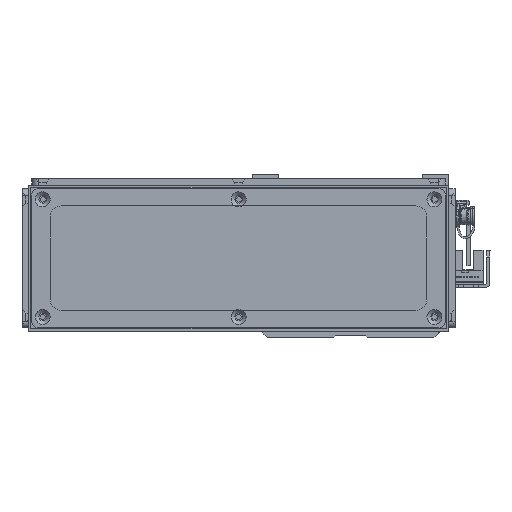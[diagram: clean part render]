
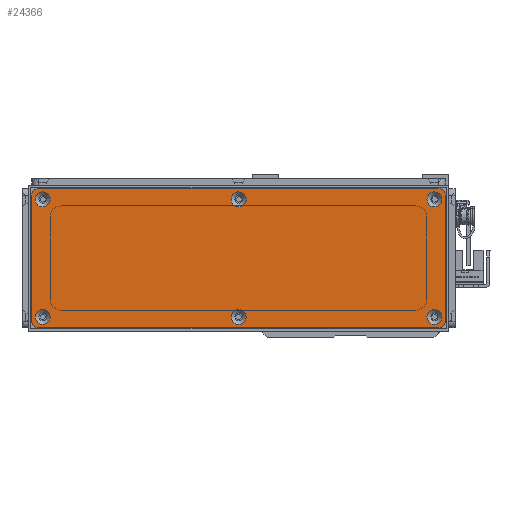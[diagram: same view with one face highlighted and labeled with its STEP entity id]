
A CAD part, left-side view. The second image highlights one B-rep face of the part: STEP entity #24366.
In plain terms, the highlighted planar face has unit normal (-1, 0, 0) as drawn and (0, 0, 1) by its records, which use the part's own axes.
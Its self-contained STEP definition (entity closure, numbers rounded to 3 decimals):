
#999=FACE_BOUND('',#5236,.T.);
#1000=FACE_BOUND('',#5237,.T.);
#1001=FACE_BOUND('',#5238,.T.);
#1002=FACE_BOUND('',#5239,.T.);
#1003=FACE_BOUND('',#5240,.T.);
#1004=FACE_BOUND('',#5241,.T.);
#1597=PLANE('',#27400);
#3467=FACE_OUTER_BOUND('',#5235,.T.);
#5235=EDGE_LOOP('',(#22842,#22843,#22844,#22845,#22846,#22847,#22848,#22849));
#5236=EDGE_LOOP('',(#22850));
#5237=EDGE_LOOP('',(#22851));
#5238=EDGE_LOOP('',(#22852));
#5239=EDGE_LOOP('',(#22853));
#5240=EDGE_LOOP('',(#22854));
#5241=EDGE_LOOP('',(#22855));
#7204=LINE('',#42841,#9170);
#7207=LINE('',#42849,#9173);
#7210=LINE('',#42857,#9176);
#7213=LINE('',#42864,#9179);
#9170=VECTOR('',#34572,10.);
#9173=VECTOR('',#34581,10.);
#9176=VECTOR('',#34590,10.);
#9179=VECTOR('',#34599,10.);
#10438=CIRCLE('',#27354,3.45);
#10441=CIRCLE('',#27359,3.45);
#10444=CIRCLE('',#27364,3.45);
#10447=CIRCLE('',#27369,3.45);
#10450=CIRCLE('',#27374,3.45);
#10453=CIRCLE('',#27379,3.45);
#10460=CIRCLE('',#27389,3.);
#10461=CIRCLE('',#27392,3.);
#10462=CIRCLE('',#27395,3.);
#10463=CIRCLE('',#27398,3.);
#12684=VERTEX_POINT('',#42757);
#12687=VERTEX_POINT('',#42767);
#12690=VERTEX_POINT('',#42777);
#12693=VERTEX_POINT('',#42787);
#12696=VERTEX_POINT('',#42797);
#12699=VERTEX_POINT('',#42807);
#12710=VERTEX_POINT('',#42834);
#12711=VERTEX_POINT('',#42836);
#12712=VERTEX_POINT('',#42840);
#12713=VERTEX_POINT('',#42844);
#12714=VERTEX_POINT('',#42848);
#12715=VERTEX_POINT('',#42852);
#12716=VERTEX_POINT('',#42856);
#12717=VERTEX_POINT('',#42860);
#16048=EDGE_CURVE('',#12684,#12684,#10438,.T.);
#16053=EDGE_CURVE('',#12687,#12687,#10441,.T.);
#16058=EDGE_CURVE('',#12690,#12690,#10444,.T.);
#16063=EDGE_CURVE('',#12693,#12693,#10447,.T.);
#16068=EDGE_CURVE('',#12696,#12696,#10450,.T.);
#16073=EDGE_CURVE('',#12699,#12699,#10453,.T.);
#16087=EDGE_CURVE('',#12711,#12710,#10460,.T.);
#16089=EDGE_CURVE('',#12712,#12711,#7204,.T.);
#16091=EDGE_CURVE('',#12713,#12712,#10461,.T.);
#16093=EDGE_CURVE('',#12714,#12713,#7207,.T.);
#16095=EDGE_CURVE('',#12715,#12714,#10462,.T.);
#16097=EDGE_CURVE('',#12716,#12715,#7210,.T.);
#16099=EDGE_CURVE('',#12717,#12716,#10463,.T.);
#16101=EDGE_CURVE('',#12710,#12717,#7213,.T.);
#22842=ORIENTED_EDGE('',*,*,#16101,.T.);
#22843=ORIENTED_EDGE('',*,*,#16099,.T.);
#22844=ORIENTED_EDGE('',*,*,#16097,.T.);
#22845=ORIENTED_EDGE('',*,*,#16095,.T.);
#22846=ORIENTED_EDGE('',*,*,#16093,.T.);
#22847=ORIENTED_EDGE('',*,*,#16091,.T.);
#22848=ORIENTED_EDGE('',*,*,#16089,.T.);
#22849=ORIENTED_EDGE('',*,*,#16087,.T.);
#22850=ORIENTED_EDGE('',*,*,#16048,.T.);
#22851=ORIENTED_EDGE('',*,*,#16053,.T.);
#22852=ORIENTED_EDGE('',*,*,#16058,.T.);
#22853=ORIENTED_EDGE('',*,*,#16063,.T.);
#22854=ORIENTED_EDGE('',*,*,#16068,.T.);
#22855=ORIENTED_EDGE('',*,*,#16073,.T.);
#24366=ADVANCED_FACE('',(#3467,#999,#1000,#1001,#1002,#1003,#1004),#1597,
 .T.);
#27354=AXIS2_PLACEMENT_3D('',#42758,#34480,#34481);
#27359=AXIS2_PLACEMENT_3D('',#42768,#34492,#34493);
#27364=AXIS2_PLACEMENT_3D('',#42778,#34504,#34505);
#27369=AXIS2_PLACEMENT_3D('',#42788,#34516,#34517);
#27374=AXIS2_PLACEMENT_3D('',#42798,#34528,#34529);
#27379=AXIS2_PLACEMENT_3D('',#42808,#34540,#34541);
#27389=AXIS2_PLACEMENT_3D('',#42837,#34567,#34568);
#27392=AXIS2_PLACEMENT_3D('',#42845,#34576,#34577);
#27395=AXIS2_PLACEMENT_3D('',#42853,#34585,#34586);
#27398=AXIS2_PLACEMENT_3D('',#42861,#34594,#34595);
#27400=AXIS2_PLACEMENT_3D('',#42865,#34600,#34601);
#34480=DIRECTION('center_axis',(0.,0.,-1.));
#34481=DIRECTION('ref_axis',(1.,0.,0.));
#34492=DIRECTION('center_axis',(0.,0.,-1.));
#34493=DIRECTION('ref_axis',(1.,0.,0.));
#34504=DIRECTION('center_axis',(0.,0.,-1.));
#34505=DIRECTION('ref_axis',(1.,0.,0.));
#34516=DIRECTION('center_axis',(0.,0.,-1.));
#34517=DIRECTION('ref_axis',(1.,0.,0.));
#34528=DIRECTION('center_axis',(0.,0.,-1.));
#34529=DIRECTION('ref_axis',(1.,0.,0.));
#34540=DIRECTION('center_axis',(0.,0.,-1.));
#34541=DIRECTION('ref_axis',(1.,0.,0.));
#34567=DIRECTION('center_axis',(0.,0.,1.));
#34568=DIRECTION('ref_axis',(0.,1.,0.));
#34572=DIRECTION('',(-1.,0.,0.));
#34576=DIRECTION('center_axis',(0.,0.,1.));
#34577=DIRECTION('ref_axis',(1.,0.,0.));
#34581=DIRECTION('',(0.,1.,0.));
#34585=DIRECTION('center_axis',(0.,0.,1.));
#34586=DIRECTION('ref_axis',(0.,-1.,0.));
#34590=DIRECTION('',(1.,0.,0.));
#34594=DIRECTION('center_axis',(0.,0.,1.));
#34595=DIRECTION('ref_axis',(-1.,0.,0.));
#34599=DIRECTION('',(0.,-1.,0.));
#34600=DIRECTION('center_axis',(0.,0.,1.));
#34601=DIRECTION('ref_axis',(1.,0.,0.));
#42757=CARTESIAN_POINT('',(-3.45,27.,1.5));
#42758=CARTESIAN_POINT('Origin',(0.,27.,1.5));
#42767=CARTESIAN_POINT('',(86.55,-27.,1.5));
#42768=CARTESIAN_POINT('Origin',(90.,-27.,1.5));
#42777=CARTESIAN_POINT('',(-93.45,27.,1.5));
#42778=CARTESIAN_POINT('Origin',(-90.,27.,1.5));
#42787=CARTESIAN_POINT('',(86.55,27.,1.5));
#42788=CARTESIAN_POINT('Origin',(90.,27.,1.5));
#42797=CARTESIAN_POINT('',(-93.45,-27.,1.5));
#42798=CARTESIAN_POINT('Origin',(-90.,-27.,1.5));
#42807=CARTESIAN_POINT('',(-3.45,-27.,1.5));
#42808=CARTESIAN_POINT('Origin',(0.,-27.,1.5));
#42834=CARTESIAN_POINT('',(-95.,29.,1.5));
#42836=CARTESIAN_POINT('',(-92.,32.,1.5));
#42837=CARTESIAN_POINT('Origin',(-92.,29.,1.5));
#42840=CARTESIAN_POINT('',(92.,32.,1.5));
#42841=CARTESIAN_POINT('',(92.,32.,1.5));
#42844=CARTESIAN_POINT('',(95.,29.,1.5));
#42845=CARTESIAN_POINT('Origin',(92.,29.,1.5));
#42848=CARTESIAN_POINT('',(95.,-29.,1.5));
#42849=CARTESIAN_POINT('',(95.,-29.,1.5));
#42852=CARTESIAN_POINT('',(92.,-32.,1.5));
#42853=CARTESIAN_POINT('Origin',(92.,-29.,1.5));
#42856=CARTESIAN_POINT('',(-92.,-32.,1.5));
#42857=CARTESIAN_POINT('',(-92.,-32.,1.5));
#42860=CARTESIAN_POINT('',(-95.,-29.,1.5));
#42861=CARTESIAN_POINT('Origin',(-92.,-29.,1.5));
#42864=CARTESIAN_POINT('',(-95.,29.,1.5));
#42865=CARTESIAN_POINT('Origin',(0.,0.,
1.5));
